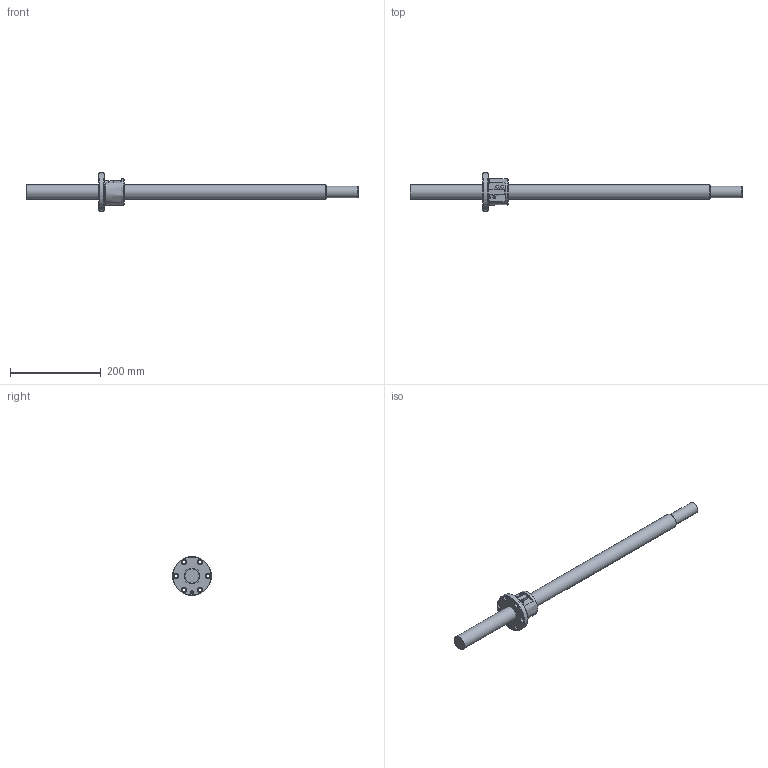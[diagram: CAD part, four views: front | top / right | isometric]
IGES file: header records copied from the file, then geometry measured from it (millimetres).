
Start section: Data from Parasolid IGES Translator 26.0.171, Copyright(c) 2006 Siemens PLM Software. All Rights Reserved.
Global section: file name: BIF3205-5RRG0+730LC5A(00).igs; native system: By Siemens PLM Incorporated; preprocessor: XPlus GENERIC/IGES 26.0.171; author: Noname; organization: Noname; date: 20240715.072849; units: millimetre
Bounding box: 730 x 85 x 85 mm (x, y, z)
Surface area: 103296.2 mm2 (no closed solid volume)
Topology: 0 solids, 0 shells, 88 faces, 424 edges, 399 vertices
Faces by surface type: revolution 60, extrusion 28
